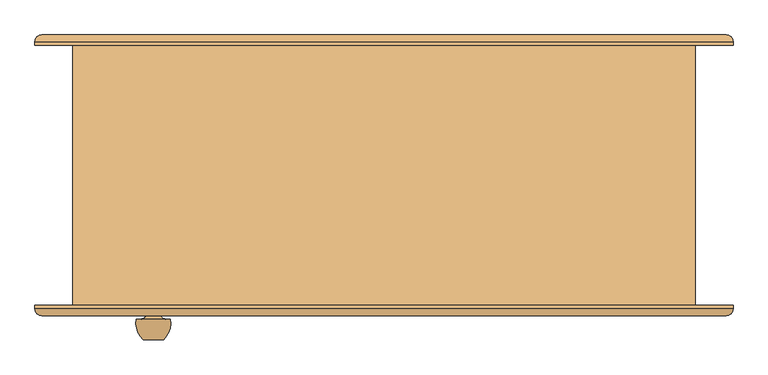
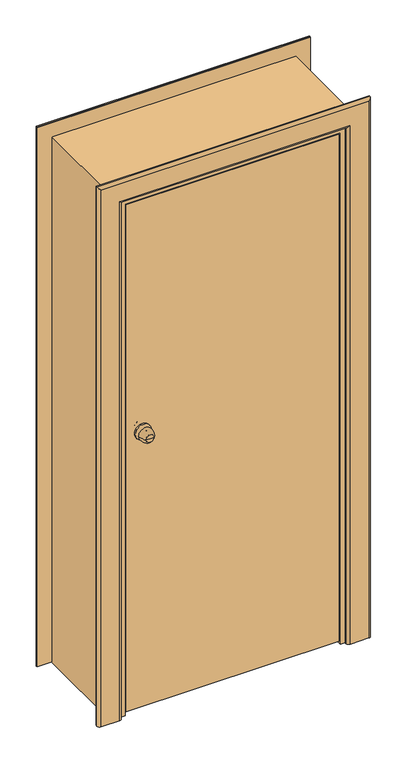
"""IFC4 building model written with IfcOpenShell, lengths in millimetres: door geometry, Внутренняя дверь 1-Навесная - 6629-88 : ДГ 21-9  ГОСТ 6629-88."""

from ifc_helpers import new_model, si_unit, point, frame, origin, place, context, project, spatial, polyline, circle_curve, ellipse_curve, trimmed, outline, extrude, faceted_brep, source, transform, mapped, element, save
from ifc_brep_helpers import plane_surface, cylinder_surface, revolved_surface, advanced_brep


def door_77306523(model_context):
    return source(origin(), model_context, "Body", "SolidModel", [
        advanced_brep(
        [(-322.0, -240.0, 1100.0), (-352.0, -240.0, 1100.0), (-337.0, -240.0, 1100.0), (-312.0, -210.0, 1100.0), (-362.0, -210.0, 1100.0), (-319.0, -210.0, 1100.0), (-355.0, -210.0, 1100.0), (-327.0, -202.0, 1100.0), (-347.0, -202.0, 1100.0), (-327.0, -196.0, 1100.0), (-347.0, -196.0, 1100.0), (-367.0, -196.0, 1100.0), (-307.0, -196.0, 1100.0), (-367.0, -190.0, 1100.0), (-307.0, -190.0, 1100.0)],
        [
            (0, 1, circle_curve(frame((-337.0, -240.0, 1100.0), z_axis=(0.0, -1.0, 0.0), x_axis=(-1.0, 0.0, 0.0)), 15.0)),
            (1, 2),
            (2, 0),
            (1, 0, circle_curve(frame((-337.0, -240.0, 1100.0), z_axis=(0.0, -1.0, 0.0), x_axis=(-1.0, 0.0, 0.0)), 15.0)),
            (0, 3, circle_curve(frame((-346.6226265, -215.1257912, 1100.0), z_axis=(0.0, 0.0, 1.0), x_axis=(-1.0, 0.0, 0.0)), 35.0)),
            (3, 4, circle_curve(frame((-337.0, -210.0, 1100.0), z_axis=(0.0, -1.0, 0.0), x_axis=(-1.0, 0.0, 0.0)), 25.0)),
            (4, 1, circle_curve(frame((-327.3773735, -215.1257912, 1100.0), z_axis=(0.0, 0.0, 1.0), x_axis=(1.0, 0.0, 0.0)), 35.0)),
            (4, 3, circle_curve(frame((-337.0, -210.0, 1100.0), z_axis=(0.0, -1.0, 0.0), x_axis=(-1.0, 0.0, 0.0)), 25.0)),
            (3, 5),
            (5, 6, circle_curve(frame((-337.0, -210.0, 1100.0), z_axis=(0.0, -1.0, 0.0), x_axis=(-1.0, 0.0, 0.0)), 18.0)),
            (6, 4),
            (6, 5, circle_curve(frame((-337.0, -210.0, 1100.0), z_axis=(0.0, -1.0, 0.0), x_axis=(-1.0, 0.0, 0.0)), 18.0)),
            (5, 7, circle_curve(frame((-319.0, -202.0, 1100.0), z_axis=(0.0, 0.0, -1.0), x_axis=(-1.0, 0.0, 0.0)), 8.0)),
            (7, 8, circle_curve(frame((-337.0, -202.0, 1100.0), z_axis=(0.0, -1.0, 0.0), x_axis=(-1.0, 0.0, 0.0)), 10.0)),
            (8, 6, circle_curve(frame((-355.0, -202.0, 1100.0), z_axis=(0.0, 0.0, -1.0), x_axis=(1.0, 0.0, 0.0)), 8.0)),
            (8, 7, circle_curve(frame((-337.0, -202.0, 1100.0), z_axis=(0.0, -1.0, 0.0), x_axis=(-1.0, 0.0, 0.0)), 10.0)),
            (7, 9),
            (9, 10, circle_curve(frame((-337.0, -196.0, 1100.0), z_axis=(0.0, -1.0, 0.0), x_axis=(-1.0, 0.0, 0.0)), 10.0)),
            (10, 8),
            (10, 9, circle_curve(frame((-337.0, -196.0, 1100.0), z_axis=(0.0, -1.0, 0.0), x_axis=(-1.0, 0.0, 0.0)), 10.0)),
            (11, 12, circle_curve(frame((-337.0, -196.0, 1100.0), z_axis=(0.0, -1.0, 0.0), x_axis=(1.0, 0.0, 0.0)), 30.0)),
            (12, 11, circle_curve(frame((-337.0, -196.0, 1100.0), z_axis=(0.0, -1.0, 0.0), x_axis=(1.0, 0.0, 0.0)), 30.0)),
            (13, 14, circle_curve(frame((-337.0, -190.0, 1100.0), z_axis=(0.0, 1.0, 0.0), x_axis=(1.0, 0.0, 0.0)), 30.0)),
            (14, 13, circle_curve(frame((-337.0, -190.0, 1100.0), z_axis=(0.0, 1.0, 0.0), x_axis=(1.0, 0.0, 0.0)), 30.0)),
            (11, 13),
            (14, 12),
        ],
        [
            plane_surface(frame((-337.0, -240.0, 1100.0), z_axis=(0.0, -1.0, 0.0), x_axis=(-1.0, 0.0, 0.0))),
            revolved_surface(trimmed(ellipse_curve(frame((-327.3773735, -215.1257912, 1100.0), z_axis=(0.0, 0.0, -1.0), x_axis=(1.0, 0.0, 0.0)), 35.0, 35.0), [point((-352.0, -240.0, 1100.0))], [point((-362.0, -210.0, 1100.0))], True, "CARTESIAN"), (-337.0, -270.0, 1100.0), (0.0, 1.0, 0.0)),
            plane_surface(frame((-337.0, -210.0, 1100.0), z_axis=(0.0, 1.0, 0.0), x_axis=(-1.0, 0.0, 0.0))),
            revolved_surface(trimmed(ellipse_curve(frame((-355.0, -202.0, 1100.0), z_axis=(0.0, 0.0, 1.0), x_axis=(1.0, 0.0, 0.0)), 8.0, 8.0), [point((-355.0, -210.0, 1100.0))], [point((-347.0, -202.0, 1100.0))], True, "CARTESIAN"), (-337.0, -270.0, 1100.0), (0.0, 1.0, 0.0)),
            cylinder_surface(frame((-337.0, -270.0, 1100.0), z_axis=(0.0, 1.0, 0.0), x_axis=(-1.0, 0.0, 0.0)), 10.0),
            plane_surface(frame((-307.0, -196.0, 1100.0), z_axis=(0.0, -1.0, 0.0), x_axis=(0.0, 0.0, 1.0))),
            plane_surface(frame((-307.0, -190.0, 1100.0), z_axis=(0.0, 1.0, 0.0), x_axis=(0.0, 0.0, -1.0))),
            cylinder_surface(frame((-337.0, -190.0, 1100.0), z_axis=(0.0, -1.0, 0.0), x_axis=(1.0, 0.0, 0.0)), 30.0),
        ],
        [
            (0, [[1, 2, 3]]),
            (0, [[-2, 4, -3]]),
            (1, [[-1, 5, 6, 7]]),
            (1, [[-4, -7, 8, -5]]),
            (2, [[-6, 9, 10, 11]]),
            (2, [[-8, -11, 12, -9]]),
            (3, [[-10, 13, 14, 15]]),
            (3, [[-12, -15, 16, -13]]),
            (4, [[-14, 17, 18, 19]]),
            (4, [[-16, -19, 20, -17]]),
            (5, [[21, 22], [-18, -20]]),
            (6, [[23, 24]]),
            (7, [[-21, 25, -24, 26]]),
            (7, [[-22, -26, -23, -25]]),
        ],
    ),
        advanced_brep(
        [(-352.0, -103.0, 1100.0), (-322.0, -103.0, 1100.0), (-337.0, -103.0, 1100.0), (-362.0, -133.0, 1100.0), (-312.0, -133.0, 1100.0), (-355.0, -133.0, 1100.0), (-319.0, -133.0, 1100.0), (-347.0, -141.0, 1100.0), (-327.0, -141.0, 1100.0), (-347.0, -147.0, 1100.0), (-327.0, -147.0, 1100.0), (-307.0, -147.0, 1100.0), (-367.0, -147.0, 1100.0), (-307.0, -153.0, 1100.0), (-367.0, -153.0, 1100.0)],
        [
            (0, 1, circle_curve(frame((-337.0, -103.0, 1100.0), z_axis=(0.0, 1.0, 0.0), x_axis=(1.0, 0.0, 0.0)), 15.0)),
            (1, 2),
            (2, 0),
            (1, 0, circle_curve(frame((-337.0, -103.0, 1100.0), z_axis=(0.0, 1.0, 0.0), x_axis=(1.0, 0.0, 0.0)), 15.0)),
            (0, 3, circle_curve(frame((-327.3773735, -127.8742088, 1100.0), z_axis=(0.0, 0.0, 1.0), x_axis=(1.0, 0.0, 0.0)), 35.0)),
            (3, 4, circle_curve(frame((-337.0, -133.0, 1100.0), z_axis=(0.0, 1.0, 0.0), x_axis=(1.0, 0.0, 0.0)), 25.0)),
            (4, 1, circle_curve(frame((-346.6226265, -127.8742088, 1100.0), z_axis=(0.0, 0.0, 1.0), x_axis=(-1.0, 0.0, 0.0)), 35.0)),
            (4, 3, circle_curve(frame((-337.0, -133.0, 1100.0), z_axis=(0.0, 1.0, 0.0), x_axis=(1.0, 0.0, 0.0)), 25.0)),
            (3, 5),
            (5, 6, circle_curve(frame((-337.0, -133.0, 1100.0), z_axis=(0.0, 1.0, 0.0), x_axis=(1.0, 0.0, 0.0)), 18.0)),
            (6, 4),
            (6, 5, circle_curve(frame((-337.0, -133.0, 1100.0), z_axis=(0.0, 1.0, 0.0), x_axis=(1.0, 0.0, 0.0)), 18.0)),
            (5, 7, circle_curve(frame((-355.0, -141.0, 1100.0), z_axis=(0.0, 0.0, -1.0), x_axis=(1.0, 0.0, 0.0)), 8.0)),
            (7, 8, circle_curve(frame((-337.0, -141.0, 1100.0), z_axis=(0.0, 1.0, 0.0), x_axis=(1.0, 0.0, 0.0)), 10.0)),
            (8, 6, circle_curve(frame((-319.0, -141.0, 1100.0), z_axis=(0.0, 0.0, -1.0), x_axis=(-1.0, 0.0, 0.0)), 8.0)),
            (8, 7, circle_curve(frame((-337.0, -141.0, 1100.0), z_axis=(0.0, 1.0, 0.0), x_axis=(1.0, 0.0, 0.0)), 10.0)),
            (7, 9),
            (9, 10, circle_curve(frame((-337.0, -147.0, 1100.0), z_axis=(0.0, 1.0, 0.0), x_axis=(1.0, 0.0, 0.0)), 10.0)),
            (10, 8),
            (10, 9, circle_curve(frame((-337.0, -147.0, 1100.0), z_axis=(0.0, 1.0, 0.0), x_axis=(1.0, 0.0, 0.0)), 10.0)),
            (11, 12, circle_curve(frame((-337.0, -147.0, 1100.0), z_axis=(0.0, 1.0, 0.0), x_axis=(-1.0, 0.0, 0.0)), 30.0)),
            (12, 11, circle_curve(frame((-337.0, -147.0, 1100.0), z_axis=(0.0, 1.0, 0.0), x_axis=(-1.0, 0.0, 0.0)), 30.0)),
            (13, 14, circle_curve(frame((-337.0, -153.0, 1100.0), z_axis=(0.0, -1.0, 0.0), x_axis=(-1.0, 0.0, 0.0)), 30.0)),
            (14, 13, circle_curve(frame((-337.0, -153.0, 1100.0), z_axis=(0.0, -1.0, 0.0), x_axis=(-1.0, 0.0, 0.0)), 30.0)),
            (11, 13),
            (14, 12),
        ],
        [
            plane_surface(frame((-337.0, -103.0, 1100.0), z_axis=(0.0, 1.0, 0.0), x_axis=(1.0, 0.0, 0.0))),
            revolved_surface(trimmed(ellipse_curve(frame((-346.6226265, -127.8742088, 1100.0), z_axis=(0.0, 0.0, -1.0), x_axis=(-1.0, 0.0, 0.0)), 35.0, 35.0), [point((-322.0, -103.0, 1100.0))], [point((-312.0, -133.0, 1100.0))], True, "CARTESIAN"), (-337.0, -73.0, 1100.0), (0.0, -1.0, 0.0)),
            plane_surface(frame((-337.0, -133.0, 1100.0), z_axis=(0.0, -1.0, 0.0), x_axis=(1.0, 0.0, 0.0))),
            revolved_surface(trimmed(ellipse_curve(frame((-319.0, -141.0, 1100.0), z_axis=(0.0, 0.0, 1.0), x_axis=(-1.0, 0.0, 0.0)), 8.0, 8.0), [point((-319.0, -133.0, 1100.0))], [point((-327.0, -141.0, 1100.0))], True, "CARTESIAN"), (-337.0, -73.0, 1100.0), (0.0, -1.0, 0.0)),
            cylinder_surface(frame((-337.0, -73.0, 1100.0), z_axis=(0.0, -1.0, 0.0), x_axis=(1.0, 0.0, 0.0)), 10.0),
            plane_surface(frame((-367.0, -147.0, 1100.0), z_axis=(0.0, 1.0, 0.0), x_axis=(0.0, 0.0, 1.0))),
            plane_surface(frame((-367.0, -153.0, 1100.0), z_axis=(0.0, -1.0, 0.0), x_axis=(0.0, 0.0, -1.0))),
            cylinder_surface(frame((-337.0, -153.0, 1100.0), z_axis=(0.0, 1.0, 0.0), x_axis=(-1.0, 0.0, 0.0)), 30.0),
        ],
        [
            (0, [[1, 2, 3]]),
            (0, [[-2, 4, -3]]),
            (1, [[-1, 5, 6, 7]]),
            (1, [[-4, -7, 8, -5]]),
            (2, [[-6, 9, 10, 11]]),
            (2, [[-8, -11, 12, -9]]),
            (3, [[-10, 13, 14, 15]]),
            (3, [[-12, -15, 16, -13]]),
            (4, [[-14, 17, 18, 19]]),
            (4, [[-16, -19, 20, -17]]),
            (5, [[21, 22], [-18, -20]]),
            (6, [[23, 24]]),
            (7, [[-21, 25, -24, 26]]),
            (7, [[-22, -26, -23, -25]]),
        ],
    ),
        extrude(outline(polyline([(0.0, 420.0), (0.0, 435.0), (2050.0, 435.0), (2050.0, -435.0), (0.0, -435.0), (0.0, -420.0), (2035.0, -420.0), (2035.0, 420.0), (0.0, 420.0)])), frame((0.0, -116.0, 0.0), z_axis=(0.0, 1.0, 0.0), x_axis=(0.0, 0.0, 1.0)), (0.0, 0.0, 1.0), 306.0),
        advanced_brep(
        [(-510.0, -190.0, 0.0), (-420.0, -190.0, 0.0), (-420.0, -195.0, 0.0), (-430.0, -205.0, 0.0), (-500.0, -205.0, 0.0), (-510.0, -195.0, 0.0), (-510.0, -190.0, 2125.0), (510.0, -190.0, 2125.0), (510.0, -190.0, 0.0), (420.0, -190.0, 0.0), (420.0, -190.0, 2035.0), (-420.0, -190.0, 2035.0), (-420.0, -195.0, 2035.0), (-430.0, -205.0, 2045.0), (430.0, -205.0, 2045.0), (430.0, -205.0, 0.0), (500.0, -205.0, 0.0), (500.0, -205.0, 2115.0), (-500.0, -205.0, 2115.0), (-510.0, -195.0, 2125.0), (510.0, -195.0, 2125.0), (510.0, -195.0, 0.0), (420.0, -195.0, 0.0), (420.0, -195.0, 2035.0)],
        [
            (0, 1),
            (1, 2),
            (2, 3, circle_curve(frame((-430.0, -195.0, 0.0), z_axis=(0.0, 0.0, -1.0), x_axis=(-1.0, 0.0, 0.0)), 10.0)),
            (3, 4),
            (4, 5, circle_curve(frame((-500.0, -195.0, 0.0), z_axis=(0.0, 0.0, -1.0), x_axis=(-1.0, 0.0, 0.0)), 10.0)),
            (5, 0),
            (0, 6),
            (6, 7),
            (7, 8),
            (8, 9),
            (9, 10),
            (10, 11),
            (11, 1),
            (11, 12),
            (12, 2),
            (12, 13, ellipse_curve(frame((-430.0, -195.0, 2045.0), z_axis=(-0.7071067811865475, 0.0, -0.7071067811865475), x_axis=(0.7071067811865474, 0.0, -0.7071067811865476)), 14.1421356, 10.0)),
            (13, 3),
            (13, 14),
            (14, 15),
            (15, 16),
            (16, 17),
            (17, 18),
            (18, 4),
            (18, 19, ellipse_curve(frame((-500.0, -195.0, 2115.0), z_axis=(-0.7071067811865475, 0.0, -0.7071067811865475), x_axis=(0.7071067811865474, 0.0, -0.7071067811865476)), 14.1421356, 10.0)),
            (19, 5),
            (19, 6),
            (7, 20),
            (20, 21),
            (21, 8),
            (21, 16, circle_curve(frame((500.0, -195.0, 0.0), z_axis=(0.0, 0.0, -1.0), x_axis=(1.0, 0.0, 0.0)), 10.0)),
            (15, 22, circle_curve(frame((430.0, -195.0, 0.0), z_axis=(0.0, 0.0, -1.0), x_axis=(1.0, 0.0, 0.0)), 10.0)),
            (22, 9),
            (23, 10),
            (22, 23),
            (14, 23, ellipse_curve(frame((430.0, -195.0, 2045.0), z_axis=(0.7071067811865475, 0.0, -0.7071067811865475), x_axis=(0.7071067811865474, 0.0, 0.7071067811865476)), 14.1421356, 10.0)),
            (20, 17, ellipse_curve(frame((500.0, -195.0, 2115.0), z_axis=(0.7071067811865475, 0.0, -0.7071067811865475), x_axis=(0.7071067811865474, 0.0, 0.7071067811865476)), 14.1421356, 10.0)),
            (23, 12),
            (20, 19),
        ],
        [
            plane_surface(frame((-455.0, -190.0, 0.0), z_axis=(0.0, 0.0, -1.0), x_axis=(0.0, 1.0, 0.0))),
            plane_surface(frame((-510.0, -190.0, 0.0), z_axis=(0.0, 1.0, 0.0), x_axis=(0.0, 0.0, 1.0))),
            plane_surface(frame((-420.0, -190.0, 0.0), z_axis=(1.0, 0.0, 0.0), x_axis=(0.0, 0.0, 1.0))),
            cylinder_surface(frame((-430.0, -195.0, 0.0), z_axis=(0.0, 0.0, -1.0), x_axis=(-1.0, 0.0, 0.0)), 10.0),
            plane_surface(frame((-430.0, -205.0, 0.0), z_axis=(0.0, -1.0, 0.0), x_axis=(0.0, 0.0, 1.0))),
            cylinder_surface(frame((-500.0, -195.0, 0.0), z_axis=(0.0, 0.0, -1.0), x_axis=(-1.0, 0.0, 0.0)), 10.0),
            plane_surface(frame((-510.0, -195.0, 0.0), z_axis=(-1.0, 0.0, 0.0), x_axis=(0.0, 0.0, 1.0))),
            plane_surface(frame((510.0, -195.0, 2125.0), z_axis=(1.0, 0.0, 0.0), x_axis=(0.0, 0.0, -1.0))),
            plane_surface(frame((455.0, -190.0, 0.0), z_axis=(0.0, 0.0, -1.0), x_axis=(0.0, 1.0, 0.0))),
            plane_surface(frame((420.0, -190.0, 2035.0), z_axis=(-1.0, 0.0, 0.0), x_axis=(0.0, 0.0, -1.0))),
            cylinder_surface(frame((430.0, -195.0, 2070.0), z_axis=(0.0, 0.0, 1.0), x_axis=(1.0, 0.0, 0.0)), 10.0),
            cylinder_surface(frame((500.0, -195.0, 2070.0), z_axis=(0.0, 0.0, 1.0), x_axis=(1.0, 0.0, 0.0)), 10.0),
            plane_surface(frame((-420.0, -190.0, 2035.0), z_axis=(0.0, 0.0, -1.0), x_axis=(1.0, 0.0, 0.0))),
            cylinder_surface(frame((-455.0, -195.0, 2045.0), z_axis=(-1.0, 0.0, 0.0), x_axis=(0.0, 0.0, 1.0)), 10.0),
            cylinder_surface(frame((-455.0, -195.0, 2115.0), z_axis=(-1.0, 0.0, 0.0), x_axis=(0.0, 0.0, 1.0)), 10.0),
            plane_surface(frame((-510.0, -195.0, 2125.0), z_axis=(0.0, 0.0, 1.0), x_axis=(1.0, 0.0, 0.0))),
        ],
        [
            (0, [[1, 2, 3, 4, 5, 6]]),
            (1, [[-1, 7, 8, 9, 10, 11, 12, 13]]),
            (2, [[-2, -13, 14, 15]]),
            (3, [[-3, -15, 16, 17]]),
            (4, [[-4, -17, 18, 19, 20, 21, 22, 23]]),
            (5, [[-5, -23, 24, 25]]),
            (6, [[-6, -25, 26, -7]]),
            (7, [[27, 28, 29, -9]]),
            (8, [[-29, 30, -20, 31, 32, -10]]),
            (9, [[33, -11, -32, 34]]),
            (10, [[35, -34, -31, -19]]),
            (11, [[36, -21, -30, -28]]),
            (12, [[-14, -12, -33, 37]]),
            (13, [[-16, -37, -35, -18]]),
            (14, [[-24, -22, -36, 38]]),
            (15, [[-26, -38, -27, -8]]),
        ],
    ),
        advanced_brep(
        [(510.0, 190.0, 0.0), (420.0, 190.0, 0.0), (420.0, 195.0, 0.0), (430.0, 205.0, 0.0), (500.0, 205.0, 0.0), (510.0, 195.0, 0.0), (510.0, 190.0, 2125.0), (-510.0, 190.0, 2125.0), (-510.0, 190.0, 0.0), (-420.0, 190.0, 0.0), (-420.0, 190.0, 2035.0), (420.0, 190.0, 2035.0), (420.0, 195.0, 2035.0), (430.0, 205.0, 2045.0), (-430.0, 205.0, 2045.0), (-430.0, 205.0, 0.0), (-500.0, 205.0, 0.0), (-500.0, 205.0, 2115.0), (500.0, 205.0, 2115.0), (510.0, 195.0, 2125.0), (-510.0, 195.0, 2125.0), (-510.0, 195.0, 0.0), (-420.0, 195.0, 0.0), (-420.0, 195.0, 2035.0)],
        [
            (0, 1),
            (1, 2),
            (2, 3, circle_curve(frame((430.0, 195.0, 0.0), z_axis=(0.0, 0.0, -1.0), x_axis=(1.0, 0.0, 0.0)), 10.0)),
            (3, 4),
            (4, 5, circle_curve(frame((500.0, 195.0, 0.0), z_axis=(0.0, 0.0, -1.0), x_axis=(1.0, 0.0, 0.0)), 10.0)),
            (5, 0),
            (0, 6),
            (6, 7),
            (7, 8),
            (8, 9),
            (9, 10),
            (10, 11),
            (11, 1),
            (11, 12),
            (12, 2),
            (12, 13, ellipse_curve(frame((430.0, 195.0, 2045.0), z_axis=(0.7071067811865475, 0.0, -0.7071067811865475), x_axis=(-0.7071067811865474, 0.0, -0.7071067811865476)), 14.1421356, 10.0)),
            (13, 3),
            (13, 14),
            (14, 15),
            (15, 16),
            (16, 17),
            (17, 18),
            (18, 4),
            (18, 19, ellipse_curve(frame((500.0, 195.0, 2115.0), z_axis=(0.7071067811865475, 0.0, -0.7071067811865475), x_axis=(-0.7071067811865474, 0.0, -0.7071067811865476)), 14.1421356, 10.0)),
            (19, 5),
            (19, 6),
            (7, 20),
            (20, 21),
            (21, 8),
            (21, 16, circle_curve(frame((-500.0, 195.0, 0.0), z_axis=(0.0, 0.0, -1.0), x_axis=(-1.0, 0.0, 0.0)), 10.0)),
            (15, 22, circle_curve(frame((-430.0, 195.0, 0.0), z_axis=(0.0, 0.0, -1.0), x_axis=(-1.0, 0.0, 0.0)), 10.0)),
            (22, 9),
            (23, 10),
            (22, 23),
            (14, 23, ellipse_curve(frame((-430.0, 195.0, 2045.0), z_axis=(-0.7071067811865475, 0.0, -0.7071067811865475), x_axis=(-0.7071067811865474, 0.0, 0.7071067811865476)), 14.1421356, 10.0)),
            (20, 17, ellipse_curve(frame((-500.0, 195.0, 2115.0), z_axis=(-0.7071067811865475, 0.0, -0.7071067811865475), x_axis=(-0.7071067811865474, 0.0, 0.7071067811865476)), 14.1421356, 10.0)),
            (23, 12),
            (20, 19),
        ],
        [
            plane_surface(frame((455.0, 190.0, 0.0), z_axis=(0.0, 0.0, -1.0), x_axis=(0.0, -1.0, 0.0))),
            plane_surface(frame((510.0, 190.0, 0.0), z_axis=(0.0, -1.0, 0.0), x_axis=(0.0, 0.0, 1.0))),
            plane_surface(frame((420.0, 190.0, 0.0), z_axis=(-1.0, 0.0, 0.0), x_axis=(0.0, 0.0, 1.0))),
            cylinder_surface(frame((430.0, 195.0, 0.0), z_axis=(0.0, 0.0, -1.0), x_axis=(1.0, 0.0, 0.0)), 10.0),
            plane_surface(frame((430.0, 205.0, 0.0), z_axis=(0.0, 1.0, 0.0), x_axis=(0.0, 0.0, 1.0))),
            cylinder_surface(frame((500.0, 195.0, 0.0), z_axis=(0.0, 0.0, -1.0), x_axis=(1.0, 0.0, 0.0)), 10.0),
            plane_surface(frame((510.0, 195.0, 0.0), z_axis=(1.0, 0.0, 0.0), x_axis=(0.0, 0.0, 1.0))),
            plane_surface(frame((-510.0, 195.0, 2125.0), z_axis=(-1.0, 0.0, 0.0), x_axis=(0.0, 0.0, -1.0))),
            plane_surface(frame((-455.0, 190.0, 0.0), z_axis=(0.0, 0.0, -1.0), x_axis=(0.0, -1.0, 0.0))),
            plane_surface(frame((-420.0, 190.0, 2035.0), z_axis=(1.0, 0.0, 0.0), x_axis=(0.0, 0.0, -1.0))),
            cylinder_surface(frame((-430.0, 195.0, 2070.0), z_axis=(0.0, 0.0, 1.0), x_axis=(-1.0, 0.0, 0.0)), 10.0),
            cylinder_surface(frame((-500.0, 195.0, 2070.0), z_axis=(0.0, 0.0, 1.0), x_axis=(-1.0, 0.0, 0.0)), 10.0),
            plane_surface(frame((420.0, 190.0, 2035.0), z_axis=(0.0, 0.0, -1.0), x_axis=(-1.0, 0.0, 0.0))),
            cylinder_surface(frame((455.0, 195.0, 2045.0), z_axis=(1.0, 0.0, 0.0), x_axis=(0.0, 0.0, 1.0)), 10.0),
            cylinder_surface(frame((455.0, 195.0, 2115.0), z_axis=(1.0, 0.0, 0.0), x_axis=(0.0, 0.0, 1.0)), 10.0),
            plane_surface(frame((510.0, 195.0, 2125.0), z_axis=(0.0, 0.0, 1.0), x_axis=(-1.0, 0.0, 0.0))),
        ],
        [
            (0, [[1, 2, 3, 4, 5, 6]]),
            (1, [[-1, 7, 8, 9, 10, 11, 12, 13]]),
            (2, [[-2, -13, 14, 15]]),
            (3, [[-3, -15, 16, 17]]),
            (4, [[-4, -17, 18, 19, 20, 21, 22, 23]]),
            (5, [[-5, -23, 24, 25]]),
            (6, [[-6, -25, 26, -7]]),
            (7, [[27, 28, 29, -9]]),
            (8, [[-29, 30, -20, 31, 32, -10]]),
            (9, [[33, -11, -32, 34]]),
            (10, [[35, -34, -31, -19]]),
            (11, [[36, -21, -30, -28]]),
            (12, [[-14, -12, -33, 37]]),
            (13, [[-16, -37, -35, -18]]),
            (14, [[-24, -22, -36, 38]]),
            (15, [[-26, -38, -27, -8]]),
        ],
    ),
        faceted_brep([(390.0, -116.0, 0.0), (435.0, -116.0, 0.0), (435.0, -190.0, 0.0), (402.0, -190.0, 0.0), (402.0, -148.0, 0.0), (390.0, -148.0, 0.0), (390.0, -116.0, 2005.0), (-390.0, -116.0, 2005.0), (-390.0, -116.0, 0.0), (-435.0, -116.0, 0.0), (-435.0, -116.0, 2050.0), (435.0, -116.0, 2050.0), (435.0, -190.0, 2050.0), (-435.0, -190.0, 2050.0), (-435.0, -190.0, 0.0), (-402.0, -190.0, 0.0), (-402.0, -190.0, 2017.0), (402.0, -190.0, 2017.0), (402.0, -148.0, 2017.0), (-402.0, -148.0, 2017.0), (-402.0, -148.0, 0.0), (-390.0, -148.0, 0.0), (-390.0, -148.0, 2005.0), (390.0, -148.0, 2005.0)], [[[0, 1, 2, 3, 4, 5]], [[1, 0, 6, 7, 8, 9, 10, 11]], [[2, 1, 11, 12]], [[3, 2, 12, 13, 14, 15, 16, 17]], [[4, 3, 17, 18]], [[5, 4, 18, 19, 20, 21, 22, 23]], [[0, 5, 23, 6]], [[7, 22, 21, 8]], [[8, 21, 20, 15, 14, 9]], [[13, 10, 9, 14]], [[19, 16, 15, 20]], [[12, 11, 10, 13]], [[18, 17, 16, 19]], [[6, 23, 22, 7]]]),
        extrude(outline(polyline([(0.0, 435.0), (0.0, 455.0), (2070.0, 455.0), (2070.0, -455.0), (0.0, -455.0), (0.0, -435.0), (2050.0, -435.0), (2050.0, 435.0), (0.0, 435.0)])), frame((0.0, -190.0, 0.0), z_axis=(0.0, 1.0, 0.0), x_axis=(0.0, 0.0, 1.0)), (0.0, 0.0, 1.0), 380.0),
        extrude(outline(polyline([(397.0, -153.0), (397.0, -190.0), (-397.0, -190.0), (-397.0, -153.0), (397.0, -153.0)])), frame((0.0, 0.0, 15.0), z_axis=(0.0, 0.0, 1.0), x_axis=(1.0, 0.0, 0.0)), (0.0, 0.0, 1.0), 1997.0),
    ])


if __name__ == "__main__":
    model = new_model("IFC4")
    model_context = context("Model", 3, world=origin())
    ifc_project = project(units=[si_unit("LENGTHUNIT", "METRE", prefix="MILLI")], contexts=[model_context])
    site = spatial("IfcSite", under=ifc_project)
    building = spatial("IfcBuilding", under=site)
    placement = place(None, origin())
    door_shape = door_77306523(model_context)
    element("IfcDoor", 1, ObjectType="Внутренняя дверь 1-Навесная - 6629-88 : ДГ 21-9  ГОСТ 6629-88", at=placement, inside=building, context=model_context, shape_type="MappedRepresentation", body=[
        mapped(door_shape, transform((0.0, 0.0, 0.0), x_axis=(1.0, 0.0, 0.0), y_axis=(0.0, 1.0, 0.0), z_axis=(0.0, 0.0, 1.0))),
    ])
    save(model, "model.ifc")
